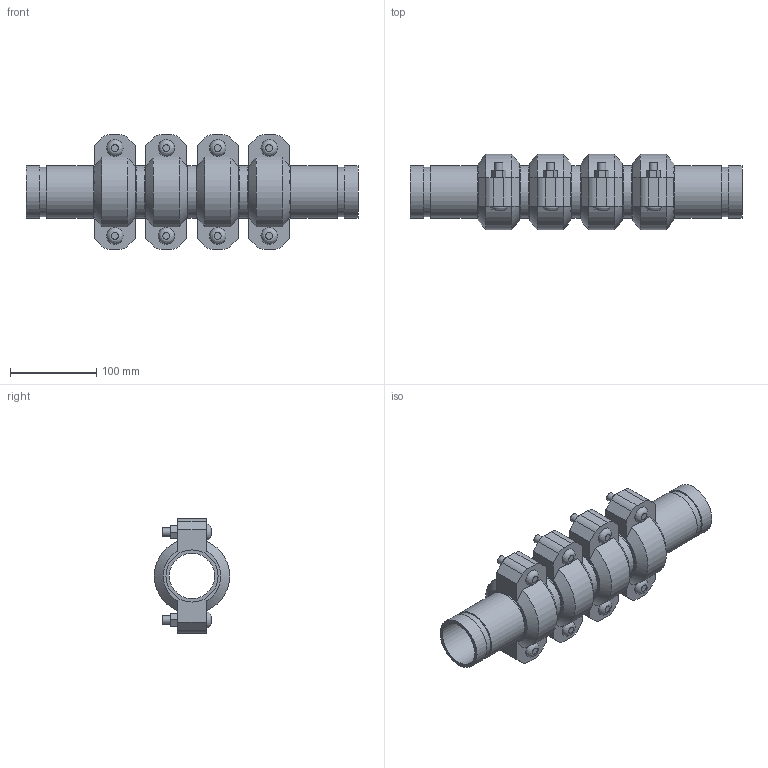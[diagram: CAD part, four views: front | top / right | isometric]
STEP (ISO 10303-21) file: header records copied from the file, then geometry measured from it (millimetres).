
FILE_DESCRIPTION(/* description */ ('VIC SS EXPANSION JOINT 4 COUPLINGS NEUTRAL STYLE 155P (OGS) (POTABLE WATER) ','CAx-IF Rec.Pracs.---Representation and Presentation of Product Manufacturing Information (PMI)---4.0---2014-10-13'),/* implementation_level */ '2;1');
FILE_NAME(/* name */ 'C:\Users\kkamble\AppData\Roaming\Autodesk\ApplicationPlugins\Victaulic.Temp\A324\Victaulic_SS_Expansion Joint_Neutral_4 Couplings_Style 155P (OGS)-Potable Water_4 Coup_Neut_2 (50).stp',/* time_stamp */ '2021-07-16T16:33:20+05:00',/* author */ ('kkamble'),/* organization */ ('Victaulic'),/* preprocessor_version */ 'ST-DEVELOPER v17.2',/* originating_system */ 'Autodesk Inventor 2019',/* authorisation */ '');
FILE_SCHEMA (('AP242_MANAGED_MODEL_BASED_3D_ENGINEERING_MIM_LF { 1 0 10303 442 1 1 4 }'));
Length unit declared in the file: inch
Products named in the file (4): 155P-02.0; Nipple-02.0; Nipple-02.0_1; 075-02.0
Assembly tree (9 placements, depth 2):
  155P-02.0
    Nipple-02.0  x2
    Nipple-02.0_1  x3
    075-02.0  x4
Bounding box: 384.05 x 87.12 x 132.59 mm (x, y, z)
Volume: 1039862.7 mm3; surface area: 304127.3 mm2
Topology: 9 solids, 17 shells, 288 faces, 682 edges, 480 vertices
Faces by surface type: plane 174, cylinder 90, cone 16, bspline 8
Full cylindrical faces by diameter (mm): 9.525 x16, 11.43 x8, 52.502 x5, 53.975 x4, 57.15 x10, 60.325 x23
Entity records: 2785 total; most frequent: CARTESIAN_POINT 493, DIRECTION 461, ORIENTED_EDGE 386, EDGE_CURVE 193, AXIS2_PLACEMENT_3D 184, VERTEX_POINT 138, EDGE_LOOP 107, LINE 93
